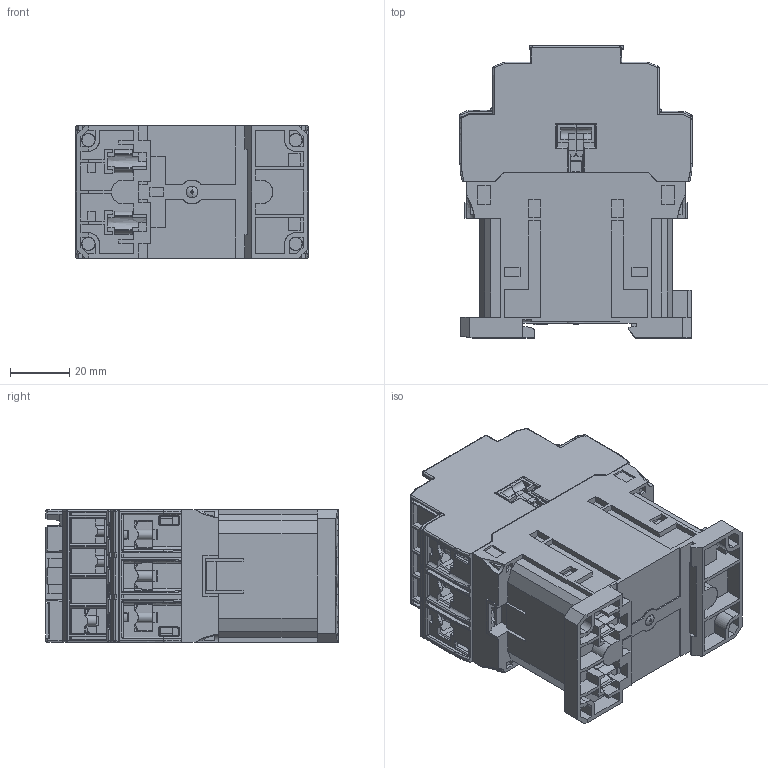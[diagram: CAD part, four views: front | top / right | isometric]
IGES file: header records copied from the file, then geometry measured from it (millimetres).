
Start section: SolidWorks IGES file using analytic representation for surfaces
Global section: file name: Q:\GROUPS\BR_SC_JGS_WA_TECNICO\ENG\Usuarios\Rodrigob\conversão\contatores\Produto\CWB9...18  DC\CWB9...18 DC .IGS; native system: SolidWorks 2012; preprocessor: SolidWorks 2012; author: rodrigob; date: 140430.151314; units: millimetre
Bounding box: 78.42 x 98.65 x 44.8 mm (x, y, z)
Surface area: 80063.9 mm2 (no closed solid volume)
Topology: 0 solids, 0 shells, 3182 faces, 25726 edges, 25650 vertices
Faces by surface type: bspline 2430, revolution 752
